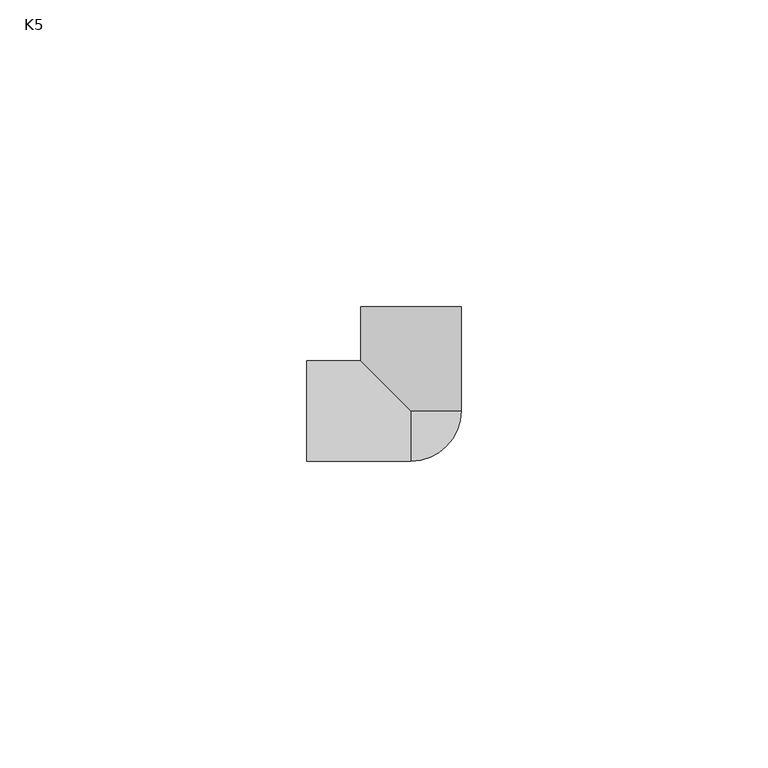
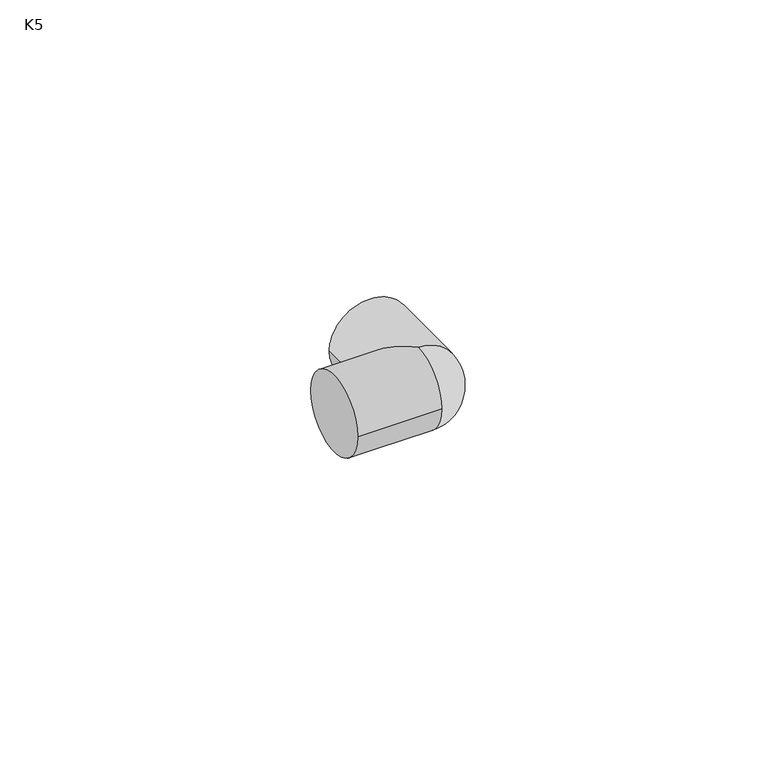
"""IFC4 building model written with IfcOpenShell, lengths in millimetres: pipe fitting geometry, AmancoWavin_ConexõesdeTubos_K5Joelho : K5."""

from ifc_helpers import new_model, si_unit, point, frame, origin, place, context, project, spatial, circle_curve, ellipse_curve, trimmed, source, transform, mapped, element, save
from ifc_brep_helpers import plane_surface, cylinder_surface, revolved_surface, advanced_brep


def k5_74904ce1(model_context):
    return source(origin(), model_context, "Body", "AdvancedBrep", [
        advanced_brep(
        [(8.2, 17.0, 0.0), (-8.2, 17.0, 0.0), (-8.2, 8.2, 0.0), (0.0, 0.0, 8.2), (8.2, 0.0, 0.0), (0.0, 0.0, -8.2), (-17.0, 8.2, 0.0), (-17.0, -8.2, 0.0), (0.0, -8.2, 0.0)],
        [
            (0, 1, circle_curve(frame((0.0, 17.0, 0.0), z_axis=(0.0, 1.0, 0.0), x_axis=(-1.0, 0.0, 0.0)), 8.2)),
            (1, 0, circle_curve(frame((0.0, 17.0, 0.0), z_axis=(0.0, 1.0, 0.0), x_axis=(-1.0, 0.0, 0.0)), 8.2)),
            (1, 2),
            (2, 3, ellipse_curve(frame((0.0, 0.0, 0.0), z_axis=(0.707106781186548, 0.7071067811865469, 0.0), x_axis=(0.7071067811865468, -0.7071067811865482, 0.0)), 11.5965512, 8.2)),
            (3, 4, circle_curve(frame((0.0, 0.0, 0.0), z_axis=(0.0, 1.0, 0.0), x_axis=(-1.0, 0.0, 0.0)), 8.2)),
            (4, 0),
            (4, 5, circle_curve(frame((0.0, 0.0, 0.0), z_axis=(0.0, 1.0, 0.0), x_axis=(-1.0, 0.0, 0.0)), 8.2)),
            (5, 2, ellipse_curve(frame((0.0, 0.0, 0.0), z_axis=(0.707106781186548, 0.7071067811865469, 0.0), x_axis=(0.7071067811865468, -0.7071067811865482, 0.0)), 11.5965512, 8.2)),
            (6, 7, circle_curve(frame((-17.0, 0.0, 0.0), z_axis=(-1.0, 0.0, 0.0), x_axis=(0.0, -1.0, 0.0)), 8.2)),
            (7, 6, circle_curve(frame((-17.0, 0.0, 0.0), z_axis=(-1.0, 0.0, 0.0), x_axis=(0.0, -1.0, 0.0)), 8.2)),
            (7, 8),
            (8, 3, circle_curve(frame((0.0, 0.0, 0.0), z_axis=(-1.0, 0.0, 0.0), x_axis=(0.0, -1.0, 0.0)), 8.2)),
            (2, 6),
            (5, 8, circle_curve(frame((0.0, 0.0, 0.0), z_axis=(-1.0, 0.0, 0.0), x_axis=(0.0, -1.0, 0.0)), 8.2)),
        ],
        [
            plane_surface(frame((0.0, 17.0, 0.0), z_axis=(0.0, 1.0, 0.0), x_axis=(0.0, 0.0, 1.0))),
            cylinder_surface(frame((0.0, 0.0, 0.0), z_axis=(0.0, -1.0, 0.0), x_axis=(-1.0, 0.0, 0.0)), 8.2),
            plane_surface(frame((-17.0, 0.0, 0.0), z_axis=(-1.0, 0.0, 0.0), x_axis=(0.0, 0.0, 1.0))),
            cylinder_surface(frame((0.0, 0.0, 0.0), z_axis=(1.0, 0.0, 0.0), x_axis=(0.0, -1.0, 0.0)), 8.2),
            revolved_surface(trimmed(ellipse_curve(frame((0.0, 0.0, 0.0), z_axis=(1.0, 0.0, 0.0), x_axis=(0.0, 1.0, 0.0)), 8.2, 8.2), [point((0.0, 0.0, 8.2))], [point((0.0, 0.0, -8.2))], True, "CARTESIAN"), (0.0, 0.0, -105.5832781), (0.0, 0.0, -1.0)),
        ],
        [
            (0, [[1, 2]]),
            (1, [[-2, 3, 4, 5, 6]]),
            (1, [[-1, -6, 7, 8, -3]]),
            (2, [[9, 10]]),
            (3, [[-10, 11, 12, -4, 13]]),
            (3, [[-9, -13, -8, 14, -11]]),
            (4, [[-5, -12, -14, -7]]),
        ],
    ),
    ])


if __name__ == "__main__":
    model = new_model("IFC4")
    model_context = context("Model", 3, world=origin())
    ifc_project = project(units=[si_unit("LENGTHUNIT", "METRE", prefix="MILLI")], contexts=[model_context])
    site = spatial("IfcSite", under=ifc_project)
    building = spatial("IfcBuilding", under=site)
    placement = place(None, origin())
    k5_shape = k5_74904ce1(model_context)
    element("IfcPipeFitting", 1, ObjectType="AmancoWavin_ConexõesdeTubos_K5Joelho : K5", at=placement, inside=building, context=model_context, shape_type="MappedRepresentation", body=[
        mapped(k5_shape, transform((0.0, 0.0, 0.0), x_axis=(1.0, 0.0, 0.0), y_axis=(0.0, 1.0, 0.0), z_axis=(0.0, 0.0, 1.0))),
    ])
    save(model, "model.ifc")
